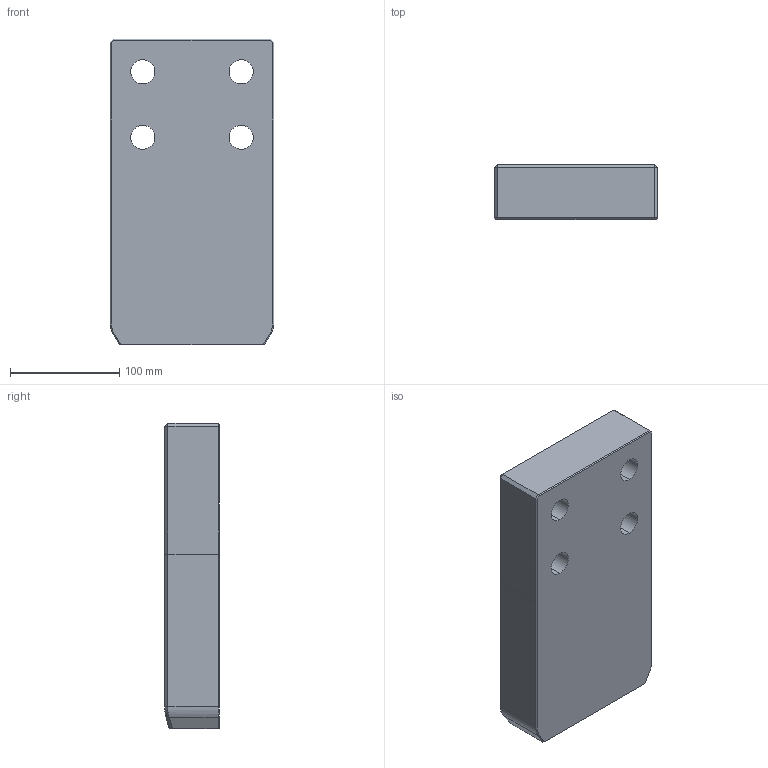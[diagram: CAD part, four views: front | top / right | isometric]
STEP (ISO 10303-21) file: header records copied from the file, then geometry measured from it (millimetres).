
FILE_DESCRIPTION((''),'2;1');
FILE_NAME('','2010-09-08T12:57:11+09:00',('misumi'),(''),'M/STEP i/f 1R2-14','CADmeister v5.1','');
FILE_SCHEMA(('AUTOMOTIVE_DESIGN'));
Length unit declared in the file: millimetre
Products named in the file (1): OGP150-280
Bounding box: 150 x 50 x 280 mm (x, y, z)
Volume: 2005636 mm3; surface area: 135584 mm2
Topology: 1 solids, 1 shells, 53 faces, 128 edges, 78 vertices
Faces by surface type: plane 32, cylinder 13, bspline 6, cone 2
Entity records: 1903 total; most frequent: CARTESIAN_POINT 598, ORIENTED_EDGE 248, DIRECTION 234, EDGE_CURVE 124, LINE 82, VECTOR 82, AXIS2_PLACEMENT_3D 76, VERTEX_POINT 74
